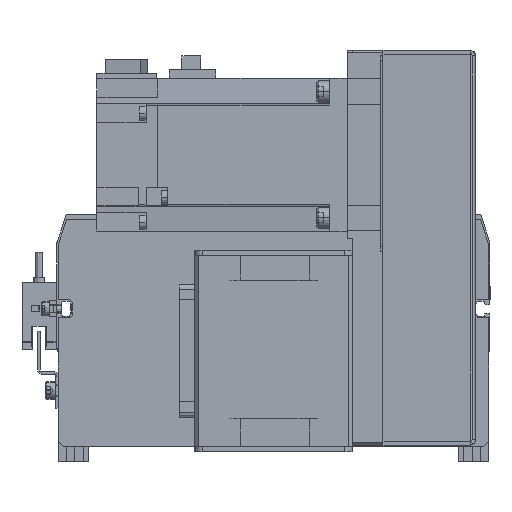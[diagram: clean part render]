
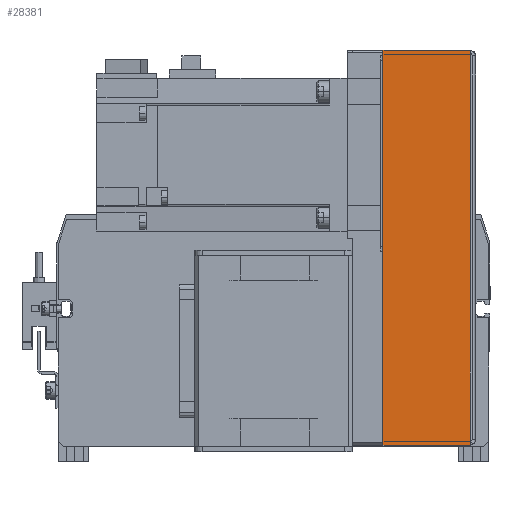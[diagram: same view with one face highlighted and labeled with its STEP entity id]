
A CAD part, front view. The second image highlights one B-rep face of the part: STEP entity #28381.
In plain terms, the highlighted planar face has unit normal (0, -1, 0) as drawn and (0, 1, 0) by its records, which use the part's own axes.
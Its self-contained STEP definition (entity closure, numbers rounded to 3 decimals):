
#1792 = VERTEX_POINT ( 'NONE', #20869 ) ;
#2292 = EDGE_CURVE ( 'NONE', #43663, #1792, #6765, .T. ) ;
#2866 = LINE ( 'NONE', #19373, #45214 ) ;
#6765 = LINE ( 'NONE', #40252, #41967 ) ;
#7461 = EDGE_CURVE ( 'NONE', #1792, #16333, #2866, .T. ) ;
#9128 = FACE_OUTER_BOUND ( 'NONE', #11187, .T. ) ;
#11187 = EDGE_LOOP ( 'NONE', ( #35654, #12140, #40728, #17532 ) ) ;
#12140 = ORIENTED_EDGE ( 'NONE', *, *, #37901, .T. ) ;
#12565 = DIRECTION ( 'NONE',  ( 0., 0., 1. ) ) ;
#15764 = AXIS2_PLACEMENT_3D ( 'NONE', #30784, #19836, #34304 ) ;
#16154 = DIRECTION ( 'NONE',  ( 1., 0., 0. ) ) ;
#16333 = VERTEX_POINT ( 'NONE', #38733 ) ;
#17532 = ORIENTED_EDGE ( 'NONE', *, *, #7461, .F. ) ;
#17623 = EDGE_CURVE ( 'NONE', #16333, #39500, #29540, .T. ) ;
#19373 = CARTESIAN_POINT ( 'NONE',  ( 0.737, 59.837, -134.327 ) ) ;
#19429 = VECTOR ( 'NONE', #20834, 1000. ) ;
#19836 = DIRECTION ( 'NONE',  ( 0., -1., 0. ) ) ;
#20834 = DIRECTION ( 'NONE',  ( 1., 0., 0. ) ) ;
#20869 = CARTESIAN_POINT ( 'NONE',  ( 0.737, 59.837, -134.327 ) ) ;
#25345 = CARTESIAN_POINT ( 'NONE',  ( 35., 59.837, -134.327 ) ) ;
#25606 = CARTESIAN_POINT ( 'NONE',  ( 0.737, 59.837, 20.673 ) ) ;
#28381 = ADVANCED_FACE ( 'NONE', ( #9128 ), #34148, .F. ) ;
#29540 = LINE ( 'NONE', #25345, #32322 ) ;
#30294 = CARTESIAN_POINT ( 'NONE',  ( 35., 59.837, 20.673 ) ) ;
#30449 = LINE ( 'NONE', #38530, #19429 ) ;
#30784 = CARTESIAN_POINT ( 'NONE',  ( 0., 59.837, 0. ) ) ;
#32322 = VECTOR ( 'NONE', #12565, 1000. ) ;
#34148 = PLANE ( 'NONE',  #15764 ) ;
#34304 = DIRECTION ( 'NONE',  ( 1., 0., 0. ) ) ;
#35654 = ORIENTED_EDGE ( 'NONE', *, *, #2292, .F. ) ;
#37901 = EDGE_CURVE ( 'NONE', #43663, #39500, #30449, .T. ) ;
#38530 = CARTESIAN_POINT ( 'NONE',  ( 0.737, 59.837, 20.673 ) ) ;
#38733 = CARTESIAN_POINT ( 'NONE',  ( 35., 59.837, -134.327 ) ) ;
#39500 = VERTEX_POINT ( 'NONE', #30294 ) ;
#40252 = CARTESIAN_POINT ( 'NONE',  ( 0.737, 59.837, -134.327 ) ) ;
#40556 = DIRECTION ( 'NONE',  ( 0., 0., -1. ) ) ;
#40728 = ORIENTED_EDGE ( 'NONE', *, *, #17623, .F. ) ;
#41967 = VECTOR ( 'NONE', #40556, 1000. ) ;
#43663 = VERTEX_POINT ( 'NONE', #25606 ) ;
#45214 = VECTOR ( 'NONE', #16154, 1000. ) ;
